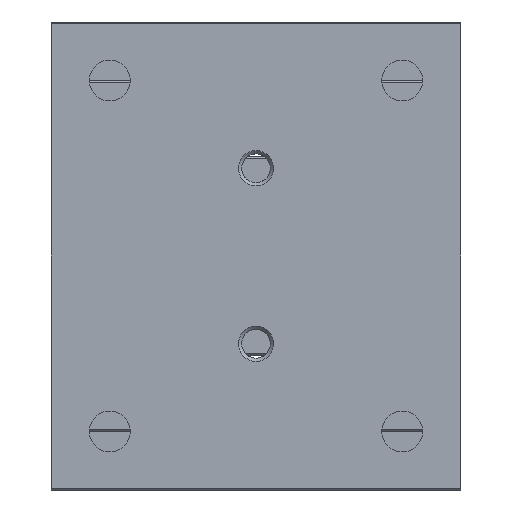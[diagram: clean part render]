
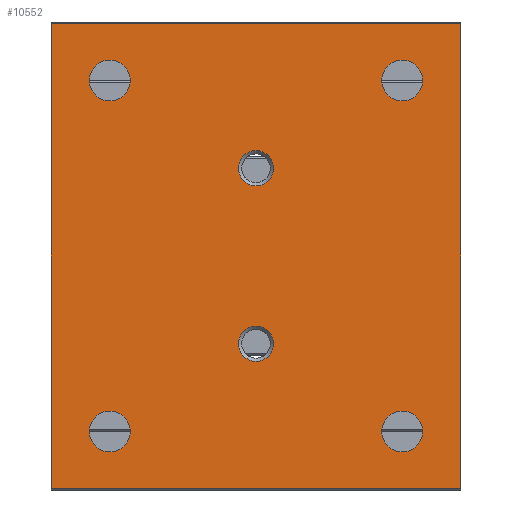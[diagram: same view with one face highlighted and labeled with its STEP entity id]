
A CAD part, front view. The second image highlights one B-rep face of the part: STEP entity #10552.
In plain terms, the highlighted planar face has unit normal (0, -1, 0).
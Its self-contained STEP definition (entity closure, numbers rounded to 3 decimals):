
#342=CIRCLE('',#11170,1.5);
#343=CIRCLE('',#11171,1.5);
#344=CIRCLE('',#11172,1.75);
#345=CIRCLE('',#11173,1.75);
#346=CIRCLE('',#11174,1.75);
#347=CIRCLE('',#11175,1.75);
#1034=LINE('',#15976,#2036);
#1057=LINE('',#16022,#2059);
#1059=LINE('',#16038,#2061);
#1060=LINE('',#16040,#2062);
#2036=VECTOR('',#12465,1000.);
#2059=VECTOR('',#12494,1000.);
#2061=VECTOR('',#12510,1000.);
#2062=VECTOR('',#12511,1000.);
#3072=ORIENTED_EDGE('',*,*,#6323,.F.);
#3073=ORIENTED_EDGE('',*,*,#6324,.F.);
#3074=ORIENTED_EDGE('',*,*,#6325,.T.);
#3075=ORIENTED_EDGE('',*,*,#6326,.F.);
#3076=ORIENTED_EDGE('',*,*,#6327,.F.);
#3077=ORIENTED_EDGE('',*,*,#6328,.F.);
#3078=ORIENTED_EDGE('',*,*,#6298,.T.);
#3079=ORIENTED_EDGE('',*,*,#6329,.F.);
#3080=ORIENTED_EDGE('',*,*,#6330,.F.);
#3081=ORIENTED_EDGE('',*,*,#6321,.T.);
#6298=EDGE_CURVE('',#7926,#7925,#1034,.T.);
#6321=EDGE_CURVE('',#7946,#7926,#1057,.T.);
#6323=EDGE_CURVE('',#7947,#7947,#342,.T.);
#6324=EDGE_CURVE('',#7948,#7948,#343,.T.);
#6325=EDGE_CURVE('',#7949,#7949,#344,.T.);
#6326=EDGE_CURVE('',#7950,#7950,#345,.T.);
#6327=EDGE_CURVE('',#7951,#7951,#346,.T.);
#6328=EDGE_CURVE('',#7952,#7952,#347,.T.);
#6329=EDGE_CURVE('',#7953,#7925,#1059,.T.);
#6330=EDGE_CURVE('',#7946,#7953,#1060,.T.);
#7925=VERTEX_POINT('',#15975);
#7926=VERTEX_POINT('',#15977);
#7946=VERTEX_POINT('',#16023);
#7947=VERTEX_POINT('',#16027);
#7948=VERTEX_POINT('',#16029);
#7949=VERTEX_POINT('',#16031);
#7950=VERTEX_POINT('',#16033);
#7951=VERTEX_POINT('',#16035);
#7952=VERTEX_POINT('',#16037);
#7953=VERTEX_POINT('',#16039);
#8961=EDGE_LOOP('',(#3072));
#8962=EDGE_LOOP('',(#3073));
#8963=EDGE_LOOP('',(#3074));
#8964=EDGE_LOOP('',(#3075));
#8965=EDGE_LOOP('',(#3076));
#8966=EDGE_LOOP('',(#3077));
#8967=EDGE_LOOP('',(#3078,#3079,#3080,#3081));
#9617=FACE_BOUND('',#8961,.T.);
#9618=FACE_BOUND('',#8962,.T.);
#9619=FACE_BOUND('',#8963,.T.);
#9620=FACE_BOUND('',#8964,.T.);
#9621=FACE_BOUND('',#8965,.T.);
#9622=FACE_BOUND('',#8966,.T.);
#9623=FACE_BOUND('',#8967,.T.);
#10273=PLANE('',#11169);
#10552=ADVANCED_FACE('',(#9617,#9618,#9619,#9620,#9621,#9622,#9623),#10273,
 .F.);
#11169=AXIS2_PLACEMENT_3D('',#16025,#12496,#12497);
#11170=AXIS2_PLACEMENT_3D('',#16026,#12498,#12499);
#11171=AXIS2_PLACEMENT_3D('',#16028,#12500,#12501);
#11172=AXIS2_PLACEMENT_3D('',#16030,#12502,#12503);
#11173=AXIS2_PLACEMENT_3D('',#16032,#12504,#12505);
#11174=AXIS2_PLACEMENT_3D('',#16034,#12506,#12507);
#11175=AXIS2_PLACEMENT_3D('',#16036,#12508,#12509);
#12465=DIRECTION('',(0.,0.,-1.));
#12494=DIRECTION('',(-1.,0.,0.));
#12496=DIRECTION('',(0.,1.,0.));
#12497=DIRECTION('',(0.,0.,1.));
#12498=DIRECTION('',(0.,-1.,0.));
#12499=DIRECTION('',(0.,0.,-1.));
#12500=DIRECTION('',(0.,-1.,0.));
#12501=DIRECTION('',(0.,0.,-1.));
#12502=DIRECTION('',(0.,1.,0.));
#12503=DIRECTION('',(0.,0.,1.));
#12504=DIRECTION('',(0.,-1.,0.));
#12505=DIRECTION('',(0.,0.,-1.));
#12506=DIRECTION('',(0.,-1.,0.));
#12507=DIRECTION('',(0.,0.,-1.));
#12508=DIRECTION('',(0.,-1.,0.));
#12509=DIRECTION('',(0.,0.,-1.));
#12510=DIRECTION('',(-1.,0.,0.));
#12511=DIRECTION('',(0.,0.,-1.));
#15975=CARTESIAN_POINT('',(0.,0.,-19.85));
#15976=CARTESIAN_POINT('',(0.,0.,19.85));
#15977=CARTESIAN_POINT('',(0.,0.,19.85));
#16022=CARTESIAN_POINT('',(35.,0.,19.85));
#16023=CARTESIAN_POINT('',(35.,0.,19.85));
#16025=CARTESIAN_POINT('',(35.,0.,19.85));
#16026=CARTESIAN_POINT('',(17.5,0.,-7.5));
#16027=CARTESIAN_POINT('',(17.5,0.,-9.));
#16028=CARTESIAN_POINT('',(17.5,0.,7.5));
#16029=CARTESIAN_POINT('',(17.5,0.,6.));
#16030=CARTESIAN_POINT('',(30.,0.,15.));
#16031=CARTESIAN_POINT('',(30.,0.,16.75));
#16032=CARTESIAN_POINT('',(30.,0.,-15.));
#16033=CARTESIAN_POINT('',(30.,0.,-16.75));
#16034=CARTESIAN_POINT('',(5.,0.,-15.));
#16035=CARTESIAN_POINT('',(5.,0.,-16.75));
#16036=CARTESIAN_POINT('',(5.,0.,15.));
#16037=CARTESIAN_POINT('',(5.,0.,13.25));
#16038=CARTESIAN_POINT('',(35.,0.,-19.85));
#16039=CARTESIAN_POINT('',(35.,0.,-19.85));
#16040=CARTESIAN_POINT('',(35.,0.,19.85));
